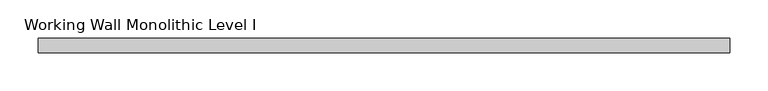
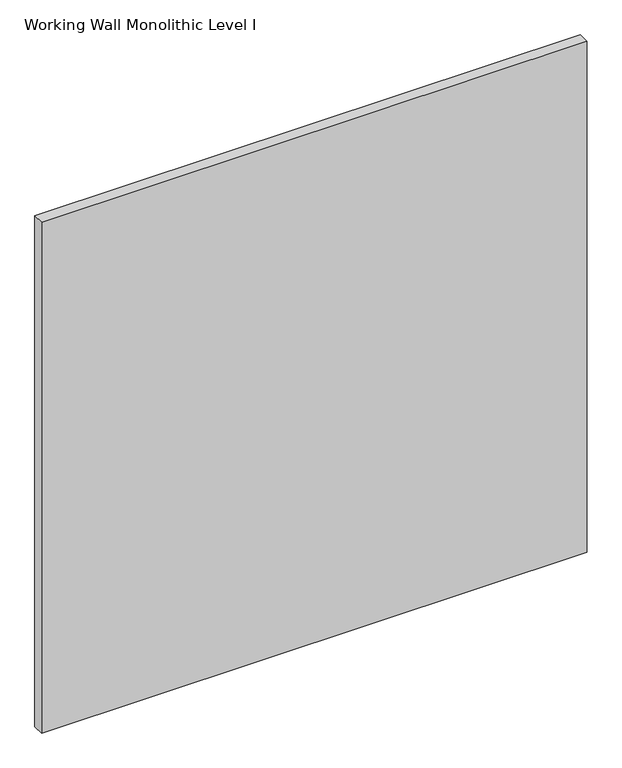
"""IFC4 building model written with IfcOpenShell, lengths in millimetres: proxy geometry, Panel-Fascia-Teknion-Altos-Standard : Working Wall Monolithic Level I."""

import ifcopenshell
import ifcopenshell.guid

model = None  # the IFC model being written
_history = None  # IfcOwnerHistory: only IFC2X3 demands one
_inside = {}  # id of a spatial element -> (the spatial element, [elements in it])
_under = {}  # id of a project, library or spatial element -> (it, [spatial elements below it])
_declared = {}  # id of a project -> (the project, [libraries it declares])
_typed = {}  # id of a type object -> (the type object, [elements of that type])
_made_of = {}  # id of a material, layer set ... -> (it, [elements and type objects made of it])


def new_model(schema):
    """Start an empty IFC model of exactly this schema.

    Asked for "IFC4X3", IfcOpenShell would pick the latest addendum, in which some entities
    have other attributes; the version numbers below select the first issue.
    IFC2X3 requires an IfcOwnerHistory on every rooted entity: one is made here for all.
    """
    global model, _history
    if schema == "IFC4X3":
        model = ifcopenshell.file(schema_version=(4, 3, 0, 0))
    else:
        model = ifcopenshell.file(schema=schema)
    _inside.clear()
    _under.clear()
    _declared.clear()
    _typed.clear()
    _made_of.clear()
    _history = None
    if model.schema == "IFC2X3":
        org = make("IfcOrganization", Name="unknown")
        user = make(
            "IfcPersonAndOrganization",
            ThePerson=make("IfcPerson", FamilyName="unknown"),
            TheOrganization=org,
        )
        app = make(
            "IfcApplication",
            ApplicationDeveloper=org,
            Version="unknown",
            ApplicationFullName="unknown",
            ApplicationIdentifier="unknown",
        )
        _history = make(
            "IfcOwnerHistory",
            OwningUser=user,
            OwningApplication=app,
            ChangeAction="ADDED",
            CreationDate=0,
        )
    return model


def make(cls, **values):
    """One entity of the class cls with the attributes given. An attribute that is None is left unset."""
    return model.create_entity(
        cls, **{name: value for name, value in values.items() if value is not None}
    )


def rooted(cls, **values):
    """An entity with a GlobalId (a new one), such as an element, a storey or a relation."""
    return make(cls, GlobalId=ifcopenshell.guid.new(), OwnerHistory=_history, **values)


def si_unit(unit_type, name, prefix=None):
    """IfcSIUnit, for example si_unit("LENGTHUNIT", "METRE", prefix="MILLI")."""
    return make("IfcSIUnit", UnitType=unit_type, Prefix=prefix, Name=name)


def assignment(units):
    """IfcUnitAssignment: the units of a project."""
    return None if units is None else make("IfcUnitAssignment", Units=units)


def point(xyz):
    """IfcCartesianPoint."""
    return None if xyz is None else make("IfcCartesianPoint", Coordinates=xyz)


def direction(xyz):
    """IfcDirection."""
    return None if xyz is None else make("IfcDirection", DirectionRatios=xyz)


def frame(location, z_axis=None, x_axis=None):
    """IfcAxis2Placement3D, a coordinate frame: its origin and axes. An axis left out is left unset."""
    return make(
        "IfcAxis2Placement3D",
        Location=point(location),
        Axis=direction(z_axis),
        RefDirection=direction(x_axis),
    )


def origin():
    """The frame at (0, 0, 0) with its axes left unset."""
    return frame((0.0, 0.0, 0.0))


def place(relative_to, where):
    """IfcLocalPlacement: puts the frame where relative to a parent placement (None: the world)."""
    return make(
        "IfcLocalPlacement", PlacementRelTo=relative_to, RelativePlacement=where
    )


def context(
    kind, dimensions, precision=None, world=None, true_north=None, identifier=None
):
    """IfcGeometricRepresentationContext, for example the 3D "Model" context."""
    return make(
        "IfcGeometricRepresentationContext",
        ContextIdentifier=identifier,
        ContextType=kind,
        CoordinateSpaceDimension=dimensions,
        Precision=precision,
        WorldCoordinateSystem=world,
        TrueNorth=true_north,
    )


def project(units=None, contexts=None):
    """IfcProject with its units and contexts."""
    return rooted(
        "IfcProject",
        Name="project",
        RepresentationContexts=contexts,
        UnitsInContext=assignment(units),
    )


def spatial(cls, under=None, at=None, **own):
    """A site, building, storey or space (cls), placed at a placement, below another one or the project."""
    s = rooted(cls, ObjectPlacement=at, **own)
    if under is not None:
        _under.setdefault(under.id(), (under, []))[1].append(s)
    return s


def polyline(points):
    """IfcPolyline through the points."""
    return make("IfcPolyline", Points=[point(p) for p in points])


def outline(outer, holes=None, kind="AREA"):
    """IfcArbitraryClosedProfileDef: a profile drawn as a closed curve; with holes, ...WithVoids."""
    if holes is None:
        return make("IfcArbitraryClosedProfileDef", ProfileType=kind, OuterCurve=outer)
    return make(
        "IfcArbitraryProfileDefWithVoids",
        ProfileType=kind,
        OuterCurve=outer,
        InnerCurves=holes,
    )


def extrude(swept, where, along, depth):
    """IfcExtrudedAreaSolid: the profile swept, set in the frame where, extruded along a direction by depth."""
    return make(
        "IfcExtrudedAreaSolid",
        SweptArea=swept,
        Position=where,
        ExtrudedDirection=direction(along),
        Depth=depth,
    )


def shape(context_of_items, identifier, shape_type, items):
    """IfcShapeRepresentation: the items that make up one representation, for example the "Body"."""
    return make(
        "IfcShapeRepresentation",
        ContextOfItems=context_of_items,
        RepresentationIdentifier=identifier,
        RepresentationType=shape_type,
        Items=items,
    )


def source(mapping_origin, context_of_items, identifier, shape_type, items):
    """IfcRepresentationMap: a shape defined once, which mapped items show again and again."""
    return make(
        "IfcRepresentationMap",
        MappingOrigin=mapping_origin,
        MappedRepresentation=shape(context_of_items, identifier, shape_type, items),
    )


def transform(
    local_origin,
    x_axis=None,
    y_axis=None,
    z_axis=None,
    scale=None,
    scale2=None,
    scale3=None,
    uniform=True,
):
    """IfcCartesianTransformationOperator3D, or its non-uniform kind. x_axis, y_axis, z_axis: its Axis1, 2, 3."""
    if uniform:
        return make(
            "IfcCartesianTransformationOperator3D",
            Axis1=direction(x_axis),
            Axis2=direction(y_axis),
            LocalOrigin=point(local_origin),
            Scale=scale,
            Axis3=direction(z_axis),
        )
    return make(
        "IfcCartesianTransformationOperator3DnonUniform",
        Axis1=direction(x_axis),
        Axis2=direction(y_axis),
        LocalOrigin=point(local_origin),
        Scale=scale,
        Axis3=direction(z_axis),
        Scale2=scale2,
        Scale3=scale3,
    )


def mapped(mapping_source, mapping_target):
    """IfcMappedItem: shows the shape of a source again, moved by a transform."""
    return make(
        "IfcMappedItem", MappingSource=mapping_source, MappingTarget=mapping_target
    )


def made_of(thing, what):
    """Note that an element or type object is made of a material, layer set ...; save() writes the relation."""
    if what is not None:
        _made_of.setdefault(what.id(), (what, []))[1].append(thing)
    return thing


def element(
    cls,
    number,
    at=None,
    inside=None,
    cuts=None,
    type_object=None,
    material=None,
    context=None,
    identifier="Body",
    shape_type=None,
    held_by="IfcProductDefinitionShape",
    body=None,
    shapes=None,
    **own,
):
    """One element of the class cls, such as IfcWall. Its Tag is "e" and its number.

    at: its placement. inside: the storey or other place that contains it. cuts: it is an
    opening in that element (IfcRelVoidsElement). A single representation is given by context,
    identifier, shape_type and body (its items); several are given by shapes. held_by: the class
    of the entity that holds the representations. save() writes the other relations.
    """
    e = rooted(cls, Tag="e%d" % number, ObjectPlacement=at, **own)
    if body is not None:
        shapes = [shape(context, identifier, shape_type, body)]
    if shapes is not None:
        e.Representation = make(held_by, Representations=shapes)
    if inside is not None:
        _inside.setdefault(inside.id(), (inside, []))[1].append(e)
    if cuts is not None:
        rooted(
            "IfcRelVoidsElement", RelatingBuildingElement=cuts, RelatedOpeningElement=e
        )
    if type_object is not None:
        _typed.setdefault(type_object.id(), (type_object, []))[1].append(e)
    return made_of(e, material)


def aggregate(whole, parts):
    """IfcRelAggregates: a whole, such as a stair, and the parts it consists of."""
    return rooted("IfcRelAggregates", RelatingObject=whole, RelatedObjects=parts)


def save(model, path):
    """Write the relations noted so far, then the file.

    IfcRelAggregates (storeys below a building ...), IfcRelContainedInSpatialStructure (elements
    in a storey), IfcRelDefinesByType, IfcRelAssociatesMaterial and IfcRelDeclares: one each for
    every whole, place, type object, material and project.
    """
    for whole, parts in _under.values():
        aggregate(whole, parts)
    for where, things in _inside.values():
        rooted(
            "IfcRelContainedInSpatialStructure",
            RelatedElements=things,
            RelatingStructure=where,
        )
    for kind, things in _typed.values():
        rooted("IfcRelDefinesByType", RelatedObjects=things, RelatingType=kind)
    for what, things in _made_of.values():
        rooted("IfcRelAssociatesMaterial", RelatedObjects=things, RelatingMaterial=what)
    for by, libraries in _declared.values():
        rooted("IfcRelDeclares", RelatingContext=by, RelatedDefinitions=libraries)
    model.write(path)


def working_wall_monolithic_level_i_ddfac440(model_context):
    return source(origin(), model_context, "Body", "SweptSolid", [
        extrude(outline(polyline([(454.025, 9.525), (454.025, -9.525), (-454.025, -9.525), (-454.025, 9.525), (454.025, 9.525)])), frame((0.0, 0.0, 3.175), z_axis=(0.0, 0.0, 1.0), x_axis=(1.0, 0.0, 0.0)), (0.0, 0.0, 1.0), 898.525),
    ])


if __name__ == "__main__":
    model = new_model("IFC4")
    model_context = context("Model", 3, world=origin())
    ifc_project = project(units=[si_unit("LENGTHUNIT", "METRE", prefix="MILLI")], contexts=[model_context])
    site = spatial("IfcSite", under=ifc_project)
    building = spatial("IfcBuilding", under=site)
    placement = place(None, origin())
    working_wall_monolithic_level_i_shape = working_wall_monolithic_level_i_ddfac440(model_context)
    element("IfcBuildingElementProxy", 1, Name="Panel-Fascia-Teknion-Altos-Standard : Working Wall Monolithic Level I", ObjectType="Panel-Fascia-Teknion-Altos-Standard : Working Wall Monolithic Level I", at=placement, inside=building, context=model_context, shape_type="MappedRepresentation", body=[
        mapped(working_wall_monolithic_level_i_shape, transform((0.0, 0.0, 0.0), x_axis=(1.0, 0.0, 0.0), y_axis=(0.0, 1.0, 0.0), z_axis=(0.0, 0.0, 1.0))),
    ])
    save(model, "model.ifc")
